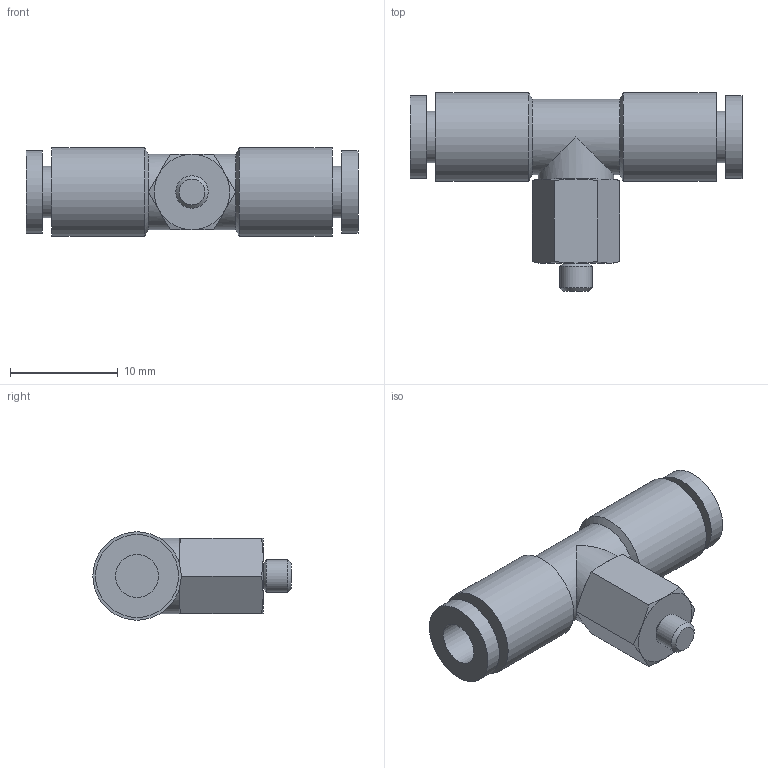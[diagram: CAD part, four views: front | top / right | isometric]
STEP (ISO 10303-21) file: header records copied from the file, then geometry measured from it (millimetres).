
FILE_DESCRIPTION(/* description */ ('STEP AP214'),/* implementation_level */ '2;1');
FILE_NAME(/* name */ 'KQ2T04-M3G',/* time_stamp */ '2023-03-09T07:34:07+01:00',/* author */ ('License CC BY-ND 4.0'),/* organization */ ('CADENAS'),/* preprocessor_version */ 'ST-DEVELOPER v18.102',/* originating_system */ 'PARTsolutions',/* authorisation */ ' ');
FILE_SCHEMA (('AUTOMOTIVE_DESIGN {1 0 10303 214 3 1 1}'));
Length unit declared in the file: millimetre
Products named in the file (1): KQ2T04-M3G
Bounding box: 30.8 x 18.4 x 8.2 mm (x, y, z)
Volume: 1473.8 mm3; surface area: 1555.2 mm2
Topology: 1 solids, 1 shells, 43 faces, 81 edges, 48 vertices
Faces by surface type: cone 16, plane 16, cylinder 11
Full cylindrical faces by diameter (mm): 3 x1, 4 x2, 4.8 x2, 7 x2, 7.7 x2, 8.2 x2
Entity records: 1046 total; most frequent: CARTESIAN_POINT 230, DIRECTION 166, ORIENTED_EDGE 132, AXIS2_PLACEMENT_3D 80, EDGE_CURVE 66, EDGE_LOOP 66, FACE_BOUND 66, VERTEX_POINT 48
